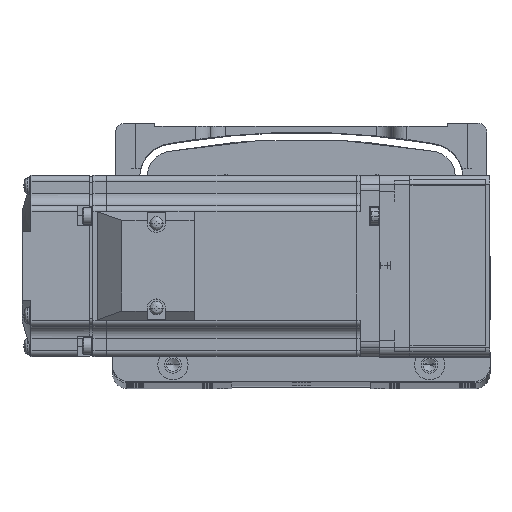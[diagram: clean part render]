
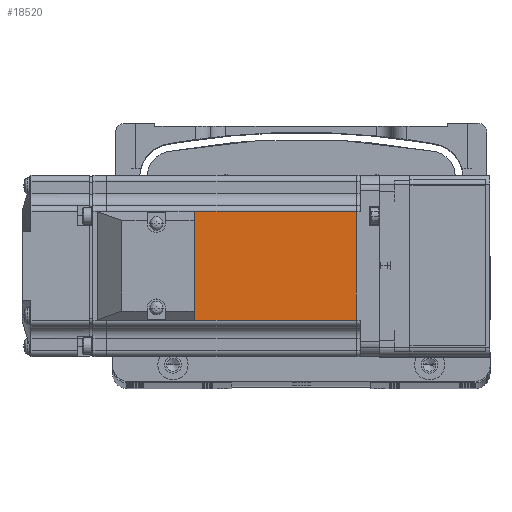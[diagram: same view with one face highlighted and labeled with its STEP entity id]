
A CAD part, top view. The second image highlights one B-rep face of the part: STEP entity #18520.
In plain terms, the highlighted planar face has unit normal (0, 0, 1) as drawn and (0, 1, 0) by its records, which use the part's own axes.
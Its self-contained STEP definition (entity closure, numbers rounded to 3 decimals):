
#149 = VERTEX_POINT ( 'NONE', #77771 ) ;
#5553 = AXIS2_PLACEMENT_3D ( 'NONE', #64272, #25200, #70790 ) ;
#8782 = LINE ( 'NONE', #40356, #74096 ) ;
#11422 = EDGE_CURVE ( 'NONE', #149, #16236, #50921, .T. ) ;
#16236 = VERTEX_POINT ( 'NONE', #47661 ) ;
#18520 = ADVANCED_FACE ( 'NONE', ( #44525 ), #70511, .T. ) ;
#21366 = CARTESIAN_POINT ( 'NONE',  ( -7.75, 30., 0. ) ) ;
#25200 = DIRECTION ( 'NONE',  ( 0., 1., 0. ) ) ;
#25397 = VERTEX_POINT ( 'NONE', #76271 ) ;
#29907 = ORIENTED_EDGE ( 'NONE', *, *, #11422, .F. ) ;
#35816 = CARTESIAN_POINT ( 'NONE',  ( -6.5, 30., 18. ) ) ;
#39961 = EDGE_LOOP ( 'NONE', ( #29907, #75808, #43558, #55100 ) ) ;
#40356 = CARTESIAN_POINT ( 'NONE',  ( -6.5, 30., -18. ) ) ;
#40534 = VERTEX_POINT ( 'NONE', #59831 ) ;
#42117 = DIRECTION ( 'NONE',  ( 1., 0., 0. ) ) ;
#43483 = DIRECTION ( 'NONE',  ( 0., 0., 1. ) ) ;
#43558 = ORIENTED_EDGE ( 'NONE', *, *, #63356, .T. ) ;
#44525 = FACE_OUTER_BOUND ( 'NONE', #39961, .T. ) ;
#46128 = EDGE_CURVE ( 'NONE', #40534, #16236, #70349, .T. ) ;
#47661 = CARTESIAN_POINT ( 'NONE',  ( -7.75, 30., 18. ) ) ;
#50058 = CARTESIAN_POINT ( 'NONE',  ( -90.45, 30., 0. ) ) ;
#50921 = LINE ( 'NONE', #21366, #83628 ) ;
#54157 = DIRECTION ( 'NONE',  ( 0., 0., 1. ) ) ;
#55100 = ORIENTED_EDGE ( 'NONE', *, *, #46128, .T. ) ;
#59831 = CARTESIAN_POINT ( 'NONE',  ( -90.45, 30., 18. ) ) ;
#63073 = EDGE_CURVE ( 'NONE', #149, #25397, #8782, .T. ) ;
#63356 = EDGE_CURVE ( 'NONE', #25397, #40534, #76056, .T. ) ;
#64272 = CARTESIAN_POINT ( 'NONE',  ( -6.5, 30., 25. ) ) ;
#66306 = DIRECTION ( 'NONE',  ( -1., 0., 0. ) ) ;
#70349 = LINE ( 'NONE', #35816, #83694 ) ;
#70511 = PLANE ( 'NONE',  #5553 ) ;
#70790 = DIRECTION ( 'NONE',  ( 0., 0., 1. ) ) ;
#74007 = VECTOR ( 'NONE', #43483, 1000. ) ;
#74096 = VECTOR ( 'NONE', #66306, 1000. ) ;
#75808 = ORIENTED_EDGE ( 'NONE', *, *, #63073, .T. ) ;
#76056 = LINE ( 'NONE', #50058, #74007 ) ;
#76271 = CARTESIAN_POINT ( 'NONE',  ( -90.45, 30., -18. ) ) ;
#77771 = CARTESIAN_POINT ( 'NONE',  ( -7.75, 30., -18. ) ) ;
#83628 = VECTOR ( 'NONE', #54157, 1000. ) ;
#83694 = VECTOR ( 'NONE', #42117, 1000. ) ;
